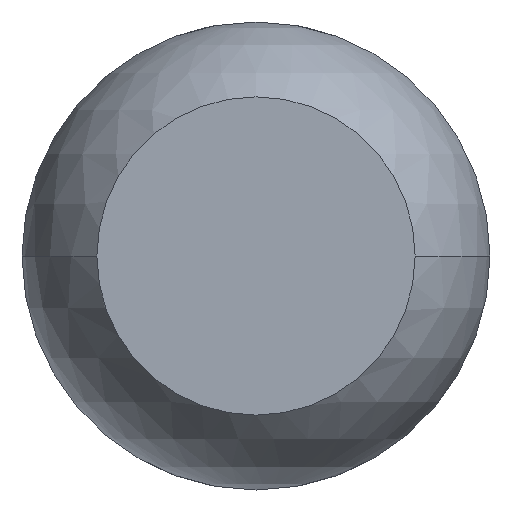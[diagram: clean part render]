
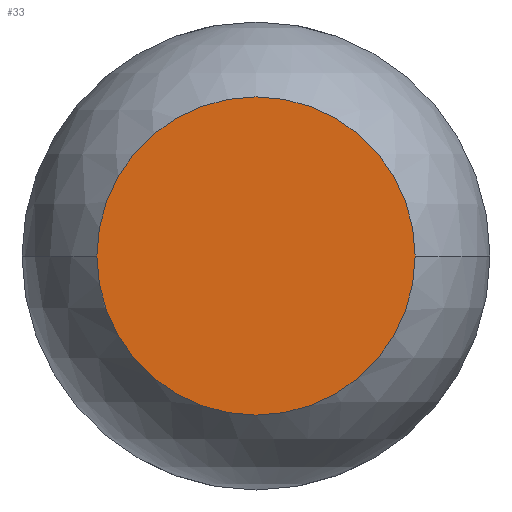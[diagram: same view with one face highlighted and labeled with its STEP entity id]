
A CAD part, left-side view. The second image highlights one B-rep face of the part: STEP entity #33.
In plain terms, the highlighted planar face has unit normal (-1, 0, 0).
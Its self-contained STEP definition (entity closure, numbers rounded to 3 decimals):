
#1 = DIRECTION ( 'NONE',  ( -1., 0., 0. ) ) ;
#16 = CARTESIAN_POINT ( 'NONE',  ( 0., -1.079, 0. ) ) ;
#33 = ADVANCED_FACE ( 'NONE', ( #174 ), #339, .T. ) ;
#43 = AXIS2_PLACEMENT_3D ( 'NONE', #161, #56, #127 ) ;
#44 = DIRECTION ( 'NONE',  ( 0., 0., 1. ) ) ;
#56 = DIRECTION ( 'NONE',  ( -1., 0., 0. ) ) ;
#90 = ORIENTED_EDGE ( 'NONE', *, *, #459, .T. ) ;
#127 = DIRECTION ( 'NONE',  ( 0., 0., 1. ) ) ;
#143 = DIRECTION ( 'NONE',  ( 0., 0., 1. ) ) ;
#161 = CARTESIAN_POINT ( 'NONE',  ( 0., 0., 0. ) ) ;
#172 = CARTESIAN_POINT ( 'NONE',  ( 0., 0., 0. ) ) ;
#174 = FACE_OUTER_BOUND ( 'NONE', #335, .T. ) ;
#197 = CARTESIAN_POINT ( 'NONE',  ( 0., 0., 0. ) ) ;
#215 = AXIS2_PLACEMENT_3D ( 'NONE', #197, #270, #44 ) ;
#268 = EDGE_CURVE ( 'NONE', #449, #397, #368, .T. ) ;
#270 = DIRECTION ( 'NONE',  ( -1., 0., 0. ) ) ;
#335 = EDGE_LOOP ( 'NONE', ( #468, #90 ) ) ;
#339 = PLANE ( 'NONE',  #215 ) ;
#342 = CIRCLE ( 'NONE', #43, 1.079 ) ;
#368 = CIRCLE ( 'NONE', #396, 1.079 ) ;
#396 = AXIS2_PLACEMENT_3D ( 'NONE', #172, #1, #143 ) ;
#397 = VERTEX_POINT ( 'NONE', #16 ) ;
#398 = CARTESIAN_POINT ( 'NONE',  ( 0., 1.079, 0. ) ) ;
#449 = VERTEX_POINT ( 'NONE', #398 ) ;
#459 = EDGE_CURVE ( 'NONE', #397, #449, #342, .T. ) ;
#468 = ORIENTED_EDGE ( 'NONE', *, *, #268, .T. ) ;
